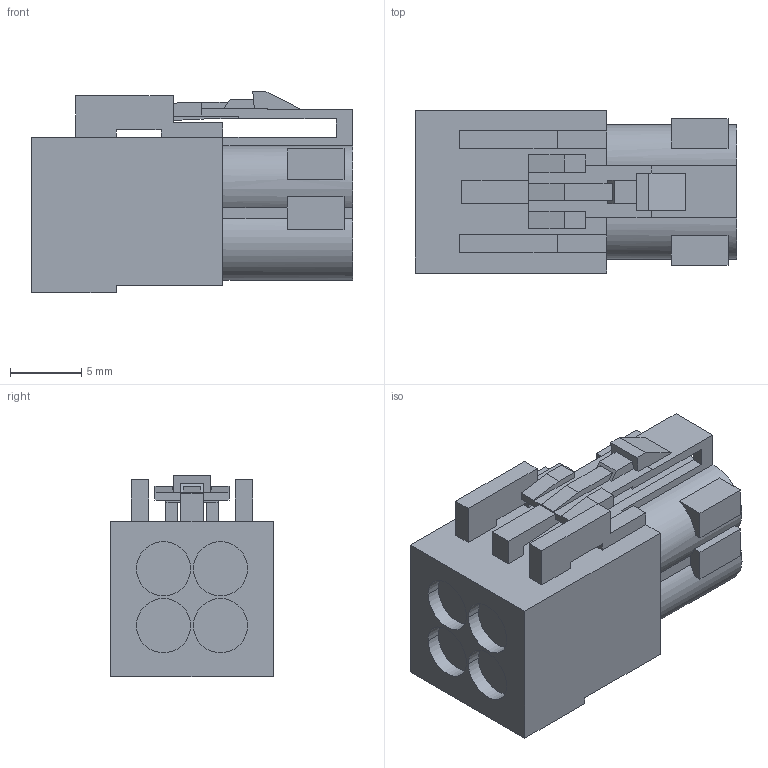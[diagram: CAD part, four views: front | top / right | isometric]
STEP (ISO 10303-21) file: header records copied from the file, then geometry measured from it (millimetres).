
FILE_DESCRIPTION(('CATIA V5 STEP','CAx-IF Rec.Pracs.--- Model Styling and Organization---1.5--- 2016-08-15','CAx-IF Rec.Pracs.---Supplemental Geometry---1.0---2011-11-01','CAx-IF Rec.Pracs.--- Composite Materials ---1.1---2010-07-15'),'2;1');
FILE_NAME('\\fss02.ad.sws.co.jp\fs100070\事務・購入\特命業務\特-35ｰ部品総合カタログメンテナンス\26年度\WEBカタログ用3D\260612_webカタログ新規登録用簡易3D\モデル保存場所\HFC5シリーズ\6099-1552.stp','2026-06-24T10:07:08+00:00',('none'),('none'),'CATIA Version 5-6 Release 2022 SP2 HF23','CATIA V5 STEP AP214 v2','none');
FILE_SCHEMA(('AUTOMOTIVE_DESIGN { 1 0 10303 214 1 1 1 1 }'));
Length unit declared in the file: millimetre
Products named in the file (1): 6099-1552
Bounding box: 22.55 x 11.4 x 14.17 mm (x, y, z)
Volume: 2448.8 mm3; surface area: 1665.9 mm2
Topology: 1 solids, 1 shells, 147 faces, 414 edges, 283 vertices
Faces by surface type: plane 110, cylinder 37
Entity records: 4488 total; most frequent: CARTESIAN_POINT 882, ORIENTED_EDGE 828, DIRECTION 577, EDGE_CURVE 414, VECTOR 314, LINE 314, VERTEX_POINT 283, AXIS2_PLACEMENT_3D 175
